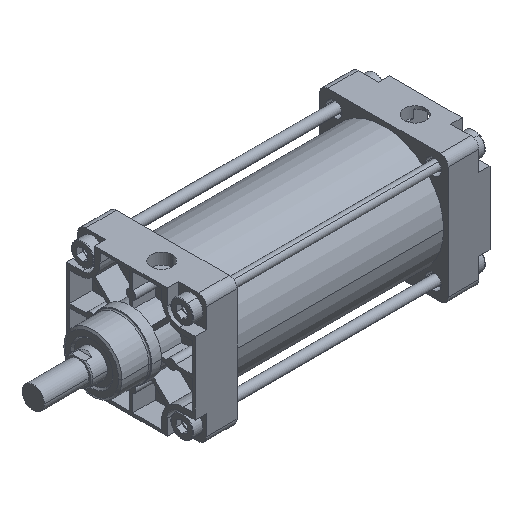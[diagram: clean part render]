
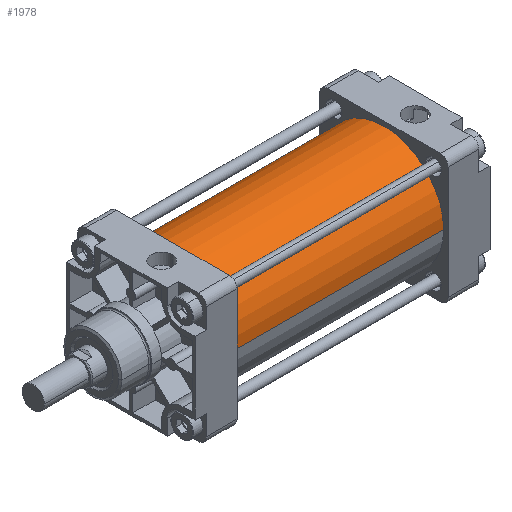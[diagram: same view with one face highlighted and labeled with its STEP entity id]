
A CAD part, isometric view. The second image highlights one B-rep face of the part: STEP entity #1978.
In plain terms, the highlighted cylindrical face has radius 53.5 mm (diameter 107 mm), a partial arc.
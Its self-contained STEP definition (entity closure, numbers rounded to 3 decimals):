
#1682=CARTESIAN_POINT('Axis2P3D Location',(0.,0.,0.)) ;
#1686=CARTESIAN_POINT('Vertex',(0.,53.5,0.)) ;
#1688=CARTESIAN_POINT('Vertex',(0.,-53.5,0.)) ;
#1948=CARTESIAN_POINT('Axis2P3D Location',(94.5,0.,0.)) ;
#1953=CARTESIAN_POINT('Line Origine',(94.5,53.5,0.)) ;
#1957=CARTESIAN_POINT('Vertex',(189.,53.5,0.)) ;
#1960=CARTESIAN_POINT('Line Origine',(94.5,-53.5,0.)) ;
#1964=CARTESIAN_POINT('Vertex',(189.,-53.5,0.)) ;
#1967=CARTESIAN_POINT('Axis2P3D Location',(189.,0.,0.)) ;
#1683=DIRECTION('Axis2P3D Direction',(1.,0.,0.)) ;
#1949=DIRECTION('Axis2P3D Direction',(1.,0.,0.)) ;
#1950=DIRECTION('Axis2P3D XDirection',(0.,1.,0.)) ;
#1954=DIRECTION('Vector Direction',(1.,0.,0.)) ;
#1961=DIRECTION('Vector Direction',(1.,0.,0.)) ;
#1968=DIRECTION('Axis2P3D Direction',(1.,0.,0.)) ;
#1684=AXIS2_PLACEMENT_3D('Circle Axis2P3D',#1682,#1683,$) ;
#1951=AXIS2_PLACEMENT_3D('Cylinder Axis2P3D',#1948,#1949,#1950) ;
#1969=AXIS2_PLACEMENT_3D('Circle Axis2P3D',#1967,#1968,$) ;
#1973=ORIENTED_EDGE('',*,*,#1959,.F.) ;
#1974=ORIENTED_EDGE('',*,*,#1690,.T.) ;
#1975=ORIENTED_EDGE('',*,*,#1966,.T.) ;
#1976=ORIENTED_EDGE('',*,*,#1971,.F.) ;
#1955=VECTOR('Line Direction',#1954,1.) ;
#1962=VECTOR('Line Direction',#1961,1.) ;
#1978=ADVANCED_FACE('PartBody',(#1977),#1952,.T.) ;
#1685=CIRCLE('generated circle',#1684,53.5) ;
#1970=CIRCLE('generated circle',#1969,53.5) ;
#1952=CYLINDRICAL_SURFACE('generated cylinder',#1951,53.5) ;
#1690=EDGE_CURVE('',#1687,#1689,#1685,.T.) ;
#1959=EDGE_CURVE('',#1687,#1958,#1956,.T.) ;
#1966=EDGE_CURVE('',#1689,#1965,#1963,.T.) ;
#1971=EDGE_CURVE('',#1958,#1965,#1970,.T.) ;
#1972=EDGE_LOOP('',(#1973,#1974,#1975,#1976)) ;
#1977=FACE_OUTER_BOUND('',#1972,.T.) ;
#1956=LINE('Line',#1953,#1955) ;
#1963=LINE('Line',#1960,#1962) ;
#1687=VERTEX_POINT('',#1686) ;
#1689=VERTEX_POINT('',#1688) ;
#1958=VERTEX_POINT('',#1957) ;
#1965=VERTEX_POINT('',#1964) ;
